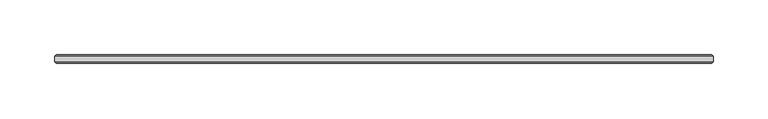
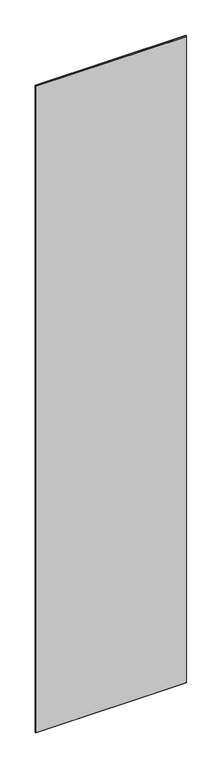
"""IFC4 building model written with IfcOpenShell, lengths in millimetres: plate geometry, 1-AMG-1-Панель одинарный витраж 8, 10 : Смещение 32 Толщина 8mm."""

from ifc_helpers import new_model, si_unit, origin, place, context, project, spatial, faceted_brep, source, transform, mapped, element, save


def plate_33882103(model_context):
    return source(origin(), model_context, "Body", "Brep", [
        faceted_brep([(319.45, -29.5038347, 2722.8), (-283.45, -29.5038347, 2722.8), (-283.45, -34.4961653, 2722.8), (319.45, -34.4961653, 2722.8), (319.45, -34.5039422, -7.0), (-283.45, -34.5039422, -7.0), (-283.45, -29.5038347, -7.0), (319.45, -29.5038347, -7.0), (-281.9461653, -36.0, 2721.2961653), (-281.9461653, -36.0, -5.5039422), (317.9461653, -36.0, -5.5039422), (317.9461653, -36.0, 2721.2961653), (317.9461653, -28.0, 2721.2961653), (317.9461653, -28.0, -5.4961653), (-281.9461653, -28.0, -5.4961653), (-281.9461653, -28.0, 2721.2961653)], [[[0, 1, 2, 3]], [[4, 5, 6, 7]], [[8, 9, 10, 11]], [[1, 6, 5, 2]], [[12, 13, 14, 15]], [[3, 4, 7, 0]], [[3, 11, 10, 4]], [[7, 13, 12, 0]], [[5, 9, 8, 2]], [[1, 15, 14, 6]], [[0, 12, 15, 1]], [[2, 8, 11, 3]], [[6, 14, 13, 7]], [[4, 10, 9, 5]]]),
    ])


if __name__ == "__main__":
    model = new_model("IFC4")
    model_context = context("Model", 3, world=origin())
    ifc_project = project(units=[si_unit("LENGTHUNIT", "METRE", prefix="MILLI")], contexts=[model_context])
    site = spatial("IfcSite", under=ifc_project)
    building = spatial("IfcBuilding", under=site)
    placement = place(None, origin())
    plate_shape = plate_33882103(model_context)
    element("IfcPlate", 1, ObjectType="1-AMG-1-Панель одинарный витраж 8, 10 : Смещение 32 Толщина 8mm", at=placement, inside=building, context=model_context, shape_type="MappedRepresentation", body=[
        mapped(plate_shape, transform((0.0, 0.0, 0.0), x_axis=(1.0, 0.0, 0.0), y_axis=(0.0, 1.0, 0.0), z_axis=(0.0, 0.0, 1.0))),
    ])
    save(model, "model.ifc")
